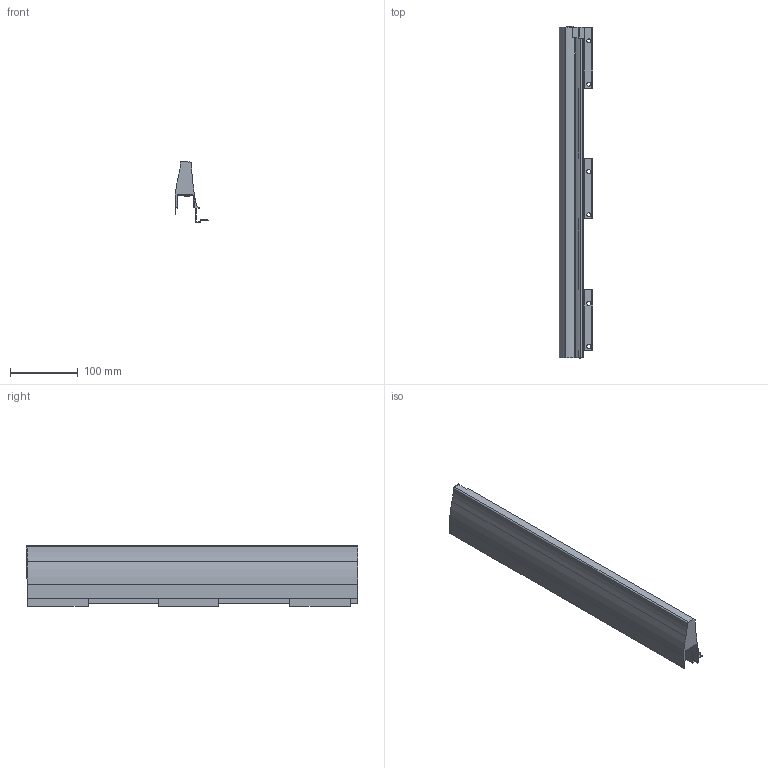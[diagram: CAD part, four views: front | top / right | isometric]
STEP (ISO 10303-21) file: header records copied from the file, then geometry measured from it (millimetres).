
FILE_DESCRIPTION (( 'STEP AP214' ), '1' );
FILE_NAME ('_XP Standard Dekorseite H95 NL500 LI .step', '2010-07-14T06:09:11', ( 'grass' ), ( '' ), 'SwSTEP 2.0', 'SolidWorks 2010', '' );
FILE_SCHEMA (( 'AUTOMOTIVE_DESIGN' ));
Length unit declared in the file: millimetre
Products named in the file (1): _XP Standard Dekorseite H95 NL500 LI  
Bounding box: 50.01 x 491.5 x 90 mm (x, y, z)
Volume: 597288.4 mm3; surface area: 160817.4 mm2
Topology: 1 solids, 1 shells, 133 faces, 390 edges, 254 vertices
Faces by surface type: plane 103, cylinder 30
Entity records: 4433 total; most frequent: ORIENTED_EDGE 780, CARTESIAN_POINT 778, DIRECTION 721, EDGE_CURVE 390, LINE 327, VECTOR 327, VERTEX_POINT 254, AXIS2_PLACEMENT_3D 197
